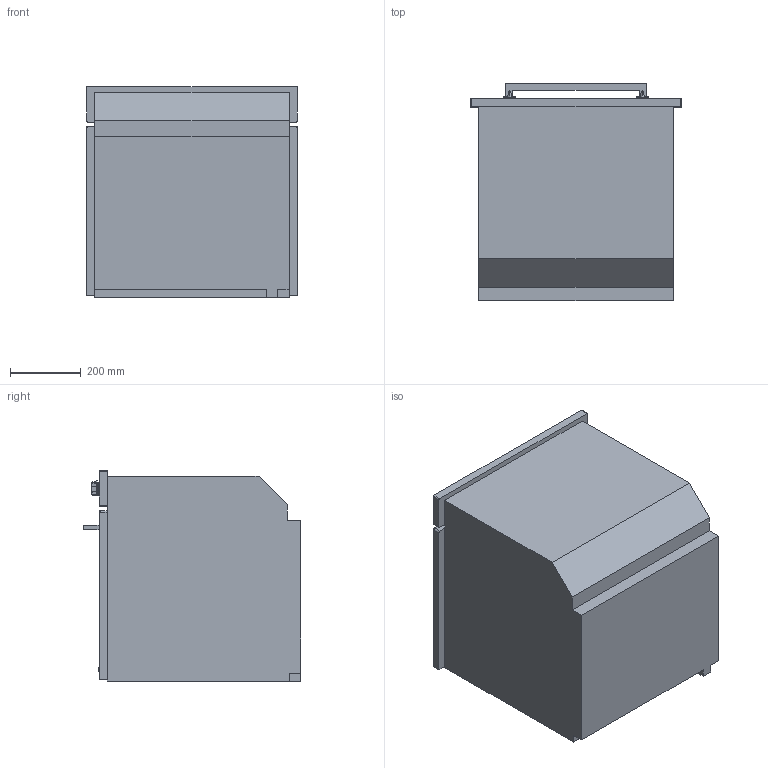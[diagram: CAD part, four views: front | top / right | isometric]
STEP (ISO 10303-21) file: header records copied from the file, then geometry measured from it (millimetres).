
FILE_DESCRIPTION(/* description */ ('Unknown'),/* implementation_level */ '2;1');
FILE_NAME(/* name */ 'SO6401S2X',/* time_stamp */ '2025-10-21T10:25:52+02:00',/* author */ ('Unknown'),/* organization */ ('Unknown'),/* preprocessor_version */ 'ST-DEVELOPER v16.7',/* originating_system */ 'DEX',/* authorisation */ $);
FILE_SCHEMA (('AUTOMOTIVE_DESIGN {1 0 10303 214 3 1 1}'));
Length unit declared in the file: millimetre
Products named in the file (1): SO6401S2X
Bounding box: 597 x 615.5 x 596 mm (x, y, z)
Volume: 178036802.1 mm3; surface area: 2028536.8 mm2
Topology: 1 solids, 3 shells, 213 faces, 561 edges, 376 vertices
Faces by surface type: plane 125, cylinder 52, bspline 30, torus 6
Full cylindrical faces by diameter (mm): 4.608 x6, 5 x2, 6 x2, 16 x2, 22 x2, 32 x2, 36 x2
Entity records: 8419 total; most frequent: CARTESIAN_POINT 2032, ORIENTED_EDGE 1056, DIRECTION 883, EDGE_CURVE 528, VERTEX_POINT 365, AXIS2_PLACEMENT_3D 296, LINE 291, VECTOR 291
